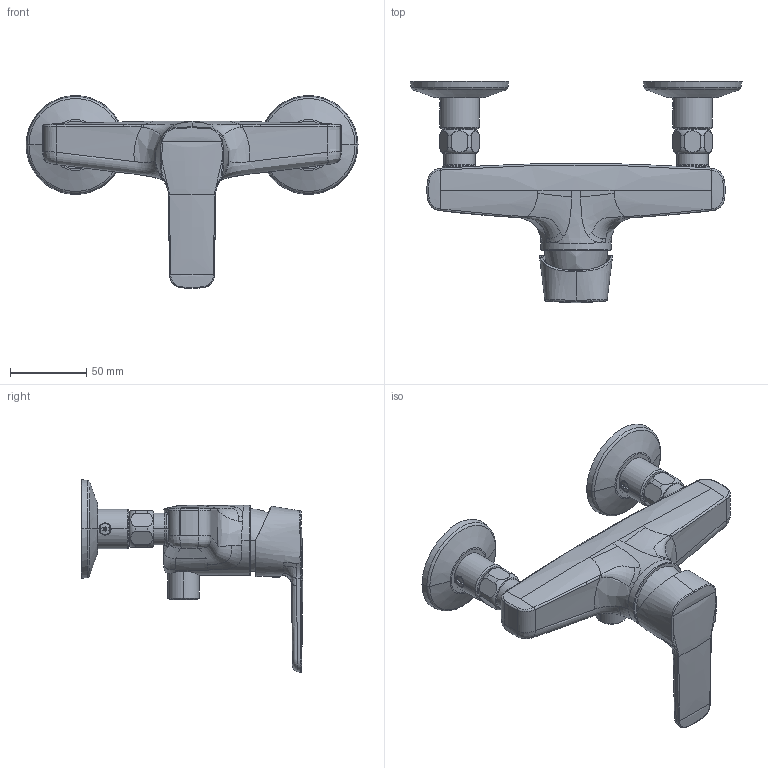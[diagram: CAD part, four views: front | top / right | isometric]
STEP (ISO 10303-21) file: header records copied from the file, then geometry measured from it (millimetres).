
FILE_DESCRIPTION((''),'2;1');
FILE_NAME('21_412_310_XXX','2018-07-23T',('ES997'),(''),'CREO PARAMETRIC BY PTC INC, 2016260','CREO PARAMETRIC BY PTC INC, 2016260','');
FILE_SCHEMA(('CONFIG_CONTROL_DESIGN'));
Length unit declared in the file: millimetre
Products named in the file (1): 21_412_310_XXX
Bounding box: 218 x 145.19 x 126.72 mm (x, y, z)
Volume: 417345.6 mm3; surface area: 64902.1 mm2
Topology: 3 solids, 3 shells, 382 faces, 962 edges, 594 vertices
Faces by surface type: plane 98, bspline 95, cylinder 91, torus 62, cone 26, sphere 8, extrusion 2
Entity records: 30100 total; most frequent: CARTESIAN_POINT 21787, ORIENTED_EDGE 1922, DIRECTION 1434, EDGE_CURVE 961, AXIS2_PLACEMENT_3D 596, VERTEX_POINT 594, B_SPLINE_CURVE_WITH_KNOTS 412, EDGE_LOOP 397
